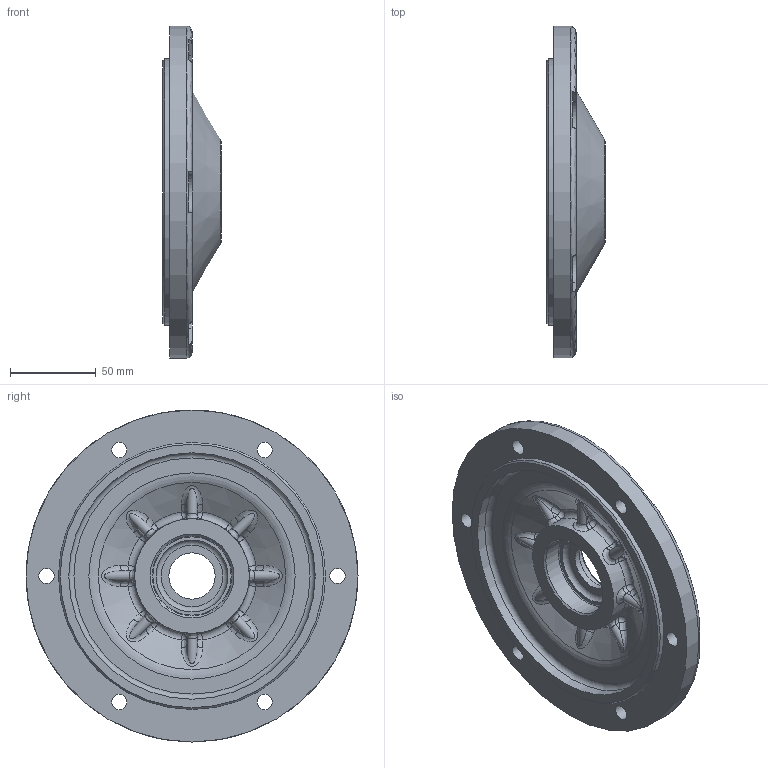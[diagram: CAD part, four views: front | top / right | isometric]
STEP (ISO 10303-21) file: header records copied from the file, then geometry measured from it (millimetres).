
FILE_DESCRIPTION(/* description */ (''),/* implementation_level */ '2;1');
FILE_NAME(/* name */ '',/* time_stamp */ '2026-03-27T11:02:56+09:00',/* author */ ('jhkim'),/* organization */ (''),/* preprocessor_version */ 'ST-DEVELOPER v20.1',/* originating_system */ 'Autodesk Inventor 2026',/* authorisation */ '');
FILE_SCHEMA (('AUTOMOTIVE_DESIGN { 1 0 10303 214 3 1 1 }'));
Length unit declared in the file: millimetre
Products named in the file (1): 커버
Bounding box: 34 x 194 x 194 mm (x, y, z)
Volume: 347132.7 mm3; surface area: 80062.8 mm2
Topology: 1 solids, 1 shells, 155 faces, 358 edges, 212 vertices
Faces by surface type: plane 43, cylinder 43, bspline 32, torus 16, sphere 16, cone 5
Full cylindrical faces by diameter (mm): 9 x6, 27 x1, 40 x1, 47 x1, 67 x1, 144 x1, 156 x1, 194 x1
Entity records: 5971 total; most frequent: CARTESIAN_POINT 2508, ORIENTED_EDGE 716, DIRECTION 706, EDGE_CURVE 358, AXIS2_PLACEMENT_3D 302, VERTEX_POINT 212, CIRCLE 178, EDGE_LOOP 176
